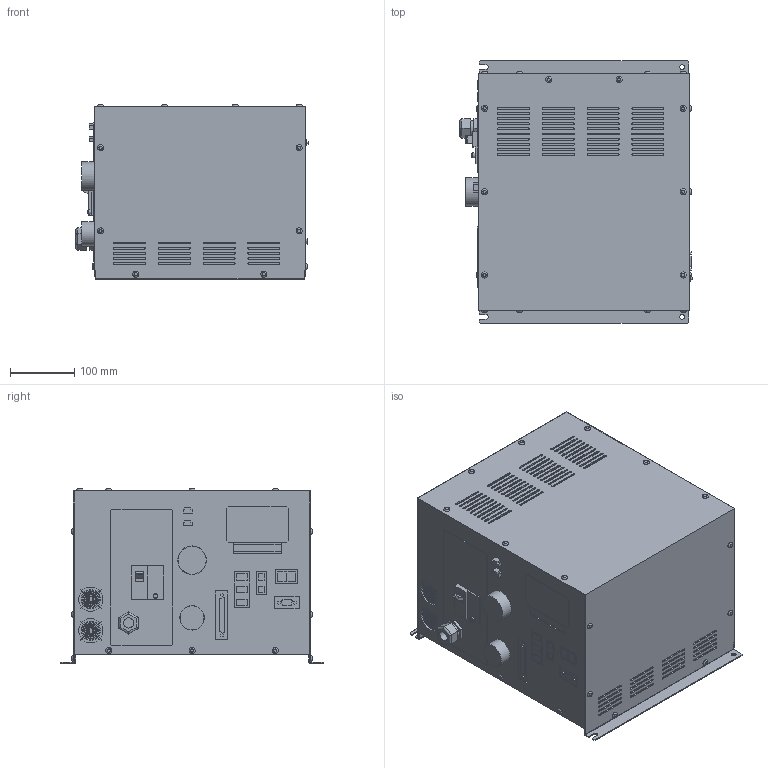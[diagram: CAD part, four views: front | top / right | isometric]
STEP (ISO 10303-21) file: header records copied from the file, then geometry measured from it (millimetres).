
FILE_DESCRIPTION(/* description */ (''),/* implementation_level */ '2;1');
FILE_NAME(/* name */ 'C:\Users\h-mitaka\Desktop\C5000S-06489.stp',/* time_stamp */ '2016-05-25T14:09:44+09:00',/* author */ ('h-mitaka'),/* organization */ (''),/* preprocessor_version */ 'ST-DEVELOPER v16.1',/* originating_system */ 'Autodesk Inventor 2016',/* authorisation */ '');
FILE_SCHEMA (('AUTOMOTIVE_DESIGN { 1 0 10303 214 3 1 1 }'));
Length unit declared in the file: millimetre
Products named in the file (1): C5000S-06489
Bounding box: 362.5 x 410 x 272.5 mm (x, y, z)
Volume: 31471546.5 mm3; surface area: 733965.8 mm2
Topology: 9 solids, 9 shells, 826 faces, 2062 edges, 1344 vertices
Faces by surface type: plane 542, cylinder 212, torus 70, cone 2
Full cylindrical faces by diameter (mm): 4 x1, 5 x4, 5.5 x1, 7 x2, 7.5 x1, 9.4 x26, 9.5 x1, 16 x1, 25 x1, 38 x2, 38.1 x1, 44.5 x1
Entity records: 24922 total; most frequent: CARTESIAN_POINT 4795, DIRECTION 4156, ORIENTED_EDGE 3984, EDGE_CURVE 1992, AXIS2_PLACEMENT_3D 1409, VERTEX_POINT 1344, LINE 1338, VECTOR 1338
